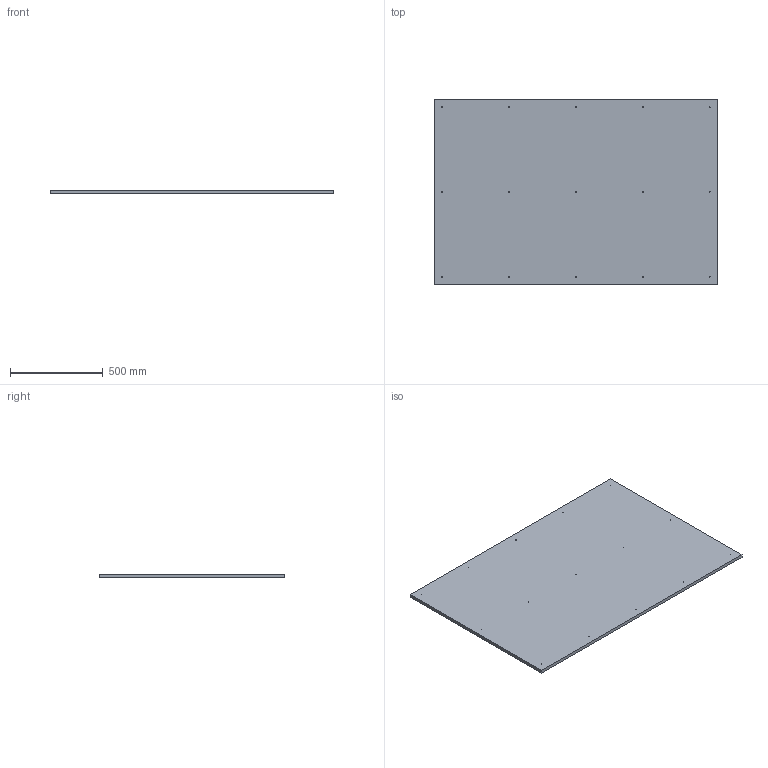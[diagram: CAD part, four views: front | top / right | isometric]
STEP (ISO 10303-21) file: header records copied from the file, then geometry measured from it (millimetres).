
FILE_DESCRIPTION(('Open CASCADE Model'),'2;1');
FILE_NAME('Open CASCADE Shape Model','2026-09-28T10:14:25',('Author'),( 'Open CASCADE'),'Open CASCADE STEP processor 7.9','Open CASCADE 7.9' ,'Unknown');
FILE_SCHEMA(('AUTOMOTIVE_DESIGN { 1 0 10303 214 1 1 1 1 }'));
Length unit declared in the file: millimetre
Products named in the file (1): Open CASCADE STEP translator 7.9 44
Bounding box: 1525 x 1000 x 18 mm (x, y, z)
Volume: 27448674.6 mm3; surface area: 3142873.3 mm2
Topology: 1 solids, 1 shells, 21 faces, 57 edges, 38 vertices
Faces by surface type: cylinder 15, plane 6
Full cylindrical faces by diameter (mm): 2.5 x15
Entity records: 1492 total; most frequent: DIRECTION 245, CARTESIAN_POINT 231, ORIENTED_EDGE 114, PCURVE 114, DEFINITIONAL_REPRESENTATION 114, LINE 111, VECTOR 111, CIRCLE 60
